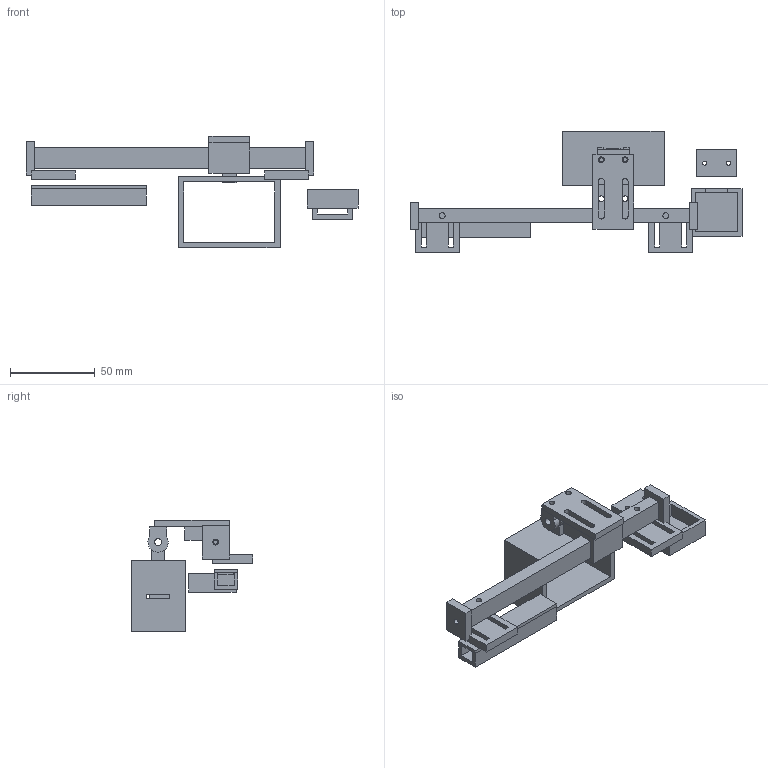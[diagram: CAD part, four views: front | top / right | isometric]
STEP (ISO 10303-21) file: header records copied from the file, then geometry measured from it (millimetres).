
FILE_DESCRIPTION(('Open CASCADE Model'),'2;1');
FILE_NAME('Open CASCADE Shape Model','2026-09-20T05:39:32',('Author'),( 'Open CASCADE'),'Open CASCADE STEP processor 7.9','Open CASCADE 7.9' ,'Unknown');
FILE_SCHEMA(('AUTOMOTIVE_DESIGN { 1 0 10303 214 1 1 1 1 }'));
Length unit declared in the file: millimetre
Products named in the file (14): AR00_MECHANICAL_ASSEMBLY; AR01_BROW_DATUM_RAIL; AR02_LATERAL_CARRIAGE; AR03_EYE_RELIEF_SLIDE; AR04_PITCH_SWING_CLEVIS; AR05_OPTIC_CARRIER; AR07_END_STOP_L; AR07_END_STOP_R; AR08_TEMPLE_SADDLE_L; AR08_TEMPLE_SADDLE_R; AR09_HELMET_NODE_TRAY; AR10_AIR_SENSOR_SHROUD; AR11_OPEN_WIRING_CHANNEL; AR12_CHANNEL_LID
Assembly tree (13 placements, depth 2):
  AR00_MECHANICAL_ASSEMBLY
    AR01_BROW_DATUM_RAIL
    AR02_LATERAL_CARRIAGE
    AR03_EYE_RELIEF_SLIDE
    AR04_PITCH_SWING_CLEVIS
    AR05_OPTIC_CARRIER
    AR07_END_STOP_L
    AR07_END_STOP_R
    AR08_TEMPLE_SADDLE_L
    AR08_TEMPLE_SADDLE_R
    AR09_HELMET_NODE_TRAY
    AR10_AIR_SENSOR_SHROUD
    AR11_OPEN_WIRING_CHANNEL
    AR12_CHANNEL_LID
Bounding box: 196 x 72 x 66 mm (x, y, z)
Volume: 66413.9 mm3; surface area: 48011.5 mm2
Topology: 13 solids, 13 shells, 197 faces, 498 edges, 332 vertices
Faces by surface type: plane 170, cylinder 27
Full cylindrical faces by diameter (mm): 2.4 x4, 2.5 x5, 3.4 x8, 4.2 x3
Entity records: 12559 total; most frequent: CARTESIAN_POINT 2361, DIRECTION 1710, LINE 1126, VECTOR 1126, ORIENTED_EDGE 996, PCURVE 996, DEFINITIONAL_REPRESENTATION 996, EDGE_CURVE 498
